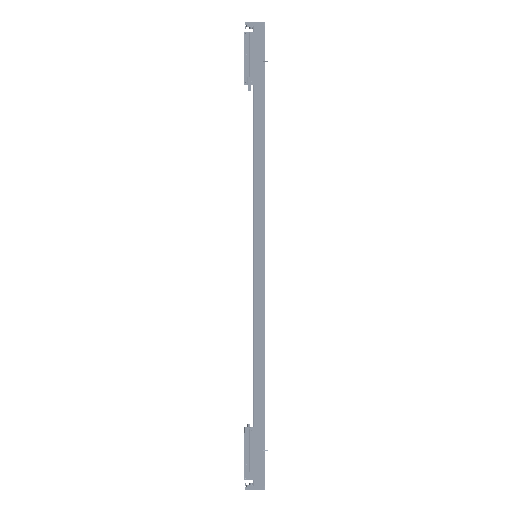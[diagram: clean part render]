
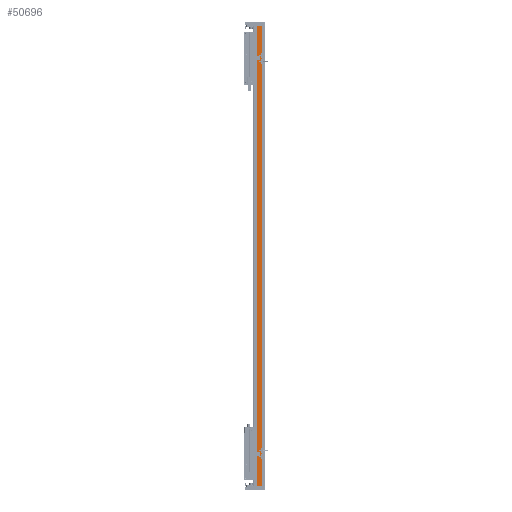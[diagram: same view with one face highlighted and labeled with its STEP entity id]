
A CAD part, left-side view. The second image highlights one B-rep face of the part: STEP entity #50696.
In plain terms, the highlighted planar face has unit normal (-1, 0, 0).
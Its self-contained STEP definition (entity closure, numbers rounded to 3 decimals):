
#2766 = EDGE_CURVE ( 'NONE', #130761, #122417, #93517, .T. ) ;
#4455 = LINE ( 'NONE', #25325, #122677 ) ;
#6718 = CARTESIAN_POINT ( 'NONE',  ( -82.5, 14.45, 1080. ) ) ;
#11849 = ORIENTED_EDGE ( 'NONE', *, *, #51631, .T. ) ;
#22852 = VERTEX_POINT ( 'NONE', #62393 ) ;
#23581 = FACE_OUTER_BOUND ( 'NONE', #97145, .T. ) ;
#25325 = CARTESIAN_POINT ( 'NONE',  ( -82.5, 36.95, -1080. ) ) ;
#26209 = CARTESIAN_POINT ( 'NONE',  ( -82.5, 36.95, -1080. ) ) ;
#27923 = LINE ( 'NONE', #89752, #123284 ) ;
#34674 = DIRECTION ( 'NONE',  ( 0., 1., 0. ) ) ;
#50696 = ADVANCED_FACE ( 'NONE', ( #23581 ), #65935, .F. ) ;
#51631 = EDGE_CURVE ( 'NONE', #122466, #22852, #4455, .T. ) ;
#55646 = ORIENTED_EDGE ( 'NONE', *, *, #84670, .F. ) ;
#57935 = DIRECTION ( 'NONE',  ( 0., -1., 0. ) ) ;
#62393 = CARTESIAN_POINT ( 'NONE',  ( -82.5, 14.45, -1080. ) ) ;
#64759 = AXIS2_PLACEMENT_3D ( 'NONE', #108310, #87470, #34674 ) ;
#65935 = PLANE ( 'NONE',  #64759 ) ;
#73350 = DIRECTION ( 'NONE',  ( 0., -1., 0. ) ) ;
#84670 = EDGE_CURVE ( 'NONE', #122417, #22852, #27923, .T. ) ;
#87470 = DIRECTION ( 'NONE',  ( 1., 0., 0. ) ) ;
#89752 = CARTESIAN_POINT ( 'NONE',  ( -82.5, 14.45, 1080. ) ) ;
#93517 = LINE ( 'NONE', #135906, #99210 ) ;
#95761 = LINE ( 'NONE', #128412, #110856 ) ;
#97145 = EDGE_LOOP ( 'NONE', ( #11849, #55646, #114519, #128403 ) ) ;
#99210 = VECTOR ( 'NONE', #73350, 1000. ) ;
#105967 = EDGE_CURVE ( 'NONE', #130761, #122466, #95761, .T. ) ;
#108310 = CARTESIAN_POINT ( 'NONE',  ( -82.5, 36.95, 1080. ) ) ;
#110856 = VECTOR ( 'NONE', #134274, 1000. ) ;
#114519 = ORIENTED_EDGE ( 'NONE', *, *, #2766, .F. ) ;
#114860 = CARTESIAN_POINT ( 'NONE',  ( -82.5, 36.95, 1080. ) ) ;
#122417 = VERTEX_POINT ( 'NONE', #6718 ) ;
#122466 = VERTEX_POINT ( 'NONE', #26209 ) ;
#122677 = VECTOR ( 'NONE', #57935, 1000. ) ;
#123042 = DIRECTION ( 'NONE',  ( 0., 0., -1. ) ) ;
#123284 = VECTOR ( 'NONE', #123042, 1000. ) ;
#128403 = ORIENTED_EDGE ( 'NONE', *, *, #105967, .T. ) ;
#128412 = CARTESIAN_POINT ( 'NONE',  ( -82.5, 36.95, 1080. ) ) ;
#130761 = VERTEX_POINT ( 'NONE', #114860 ) ;
#134274 = DIRECTION ( 'NONE',  ( 0., 0., -1. ) ) ;
#135906 = CARTESIAN_POINT ( 'NONE',  ( -82.5, 36.95, 1080. ) ) ;
